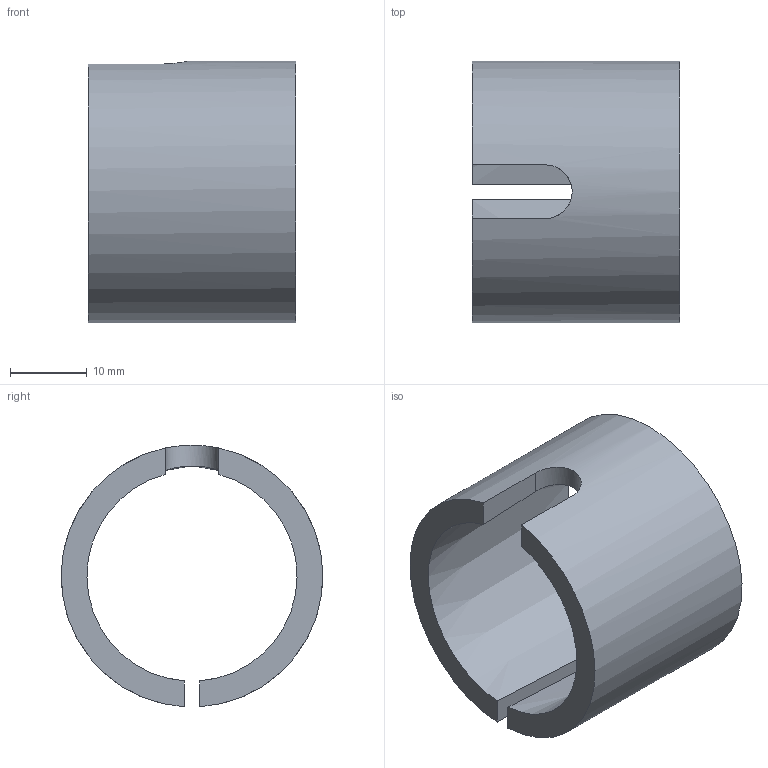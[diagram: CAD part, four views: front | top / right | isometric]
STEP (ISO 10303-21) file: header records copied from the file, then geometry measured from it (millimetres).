
FILE_DESCRIPTION( ( '' ), '1' );
FILE_NAME( 'W:/Catalogue/JF6H/JF6H_OPTION/JF6H53_Sleeve.stp', '2008-05-26T01:08:11', ( '機械事業部産業機器グループ' ), ( '豊和工業株式会社' ), 'XStep 1.0', ' ', ' ' );
FILE_SCHEMA( ( 'CONFIG_CONTROL_DESIGN' ) );
Length unit declared in the file: millimetre
Products named in the file (1): 1
Bounding box: 27 x 34 x 33.97 mm (x, y, z)
Volume: 6687.1 mm3; surface area: 5761.5 mm2
Topology: 1 solids, 1 shells, 10 faces, 24 edges, 16 vertices
Faces by surface type: plane 7, cylinder 2, cone 1
Entity records: 416 total; most frequent: CARTESIAN_POINT 141, ORIENTED_EDGE 48, DIRECTION 46, EDGE_CURVE 24, AXIS2_PLACEMENT_3D 17, VERTEX_POINT 16, LINE 12, VECTOR 12
